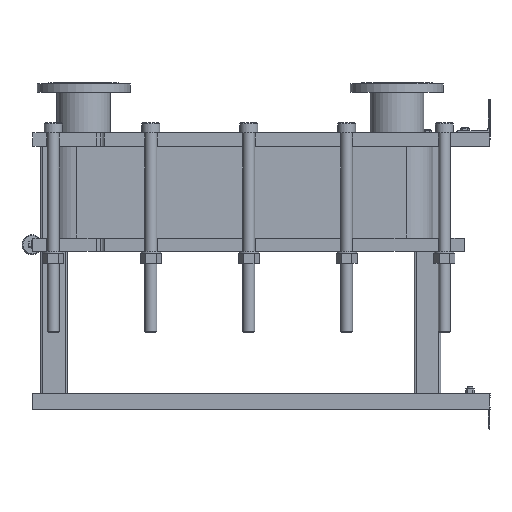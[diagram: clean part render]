
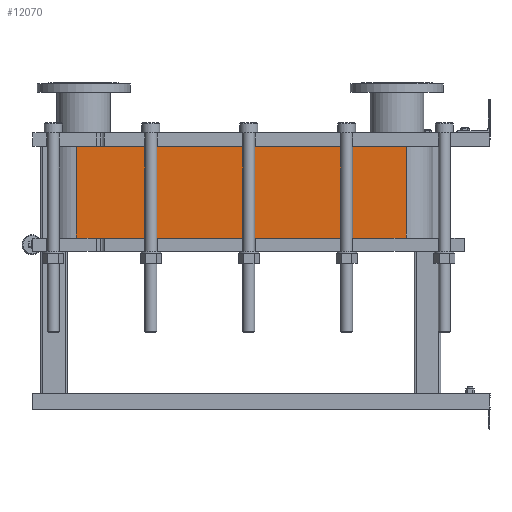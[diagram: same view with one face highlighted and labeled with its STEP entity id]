
A CAD part, left-side view. The second image highlights one B-rep face of the part: STEP entity #12070.
In plain terms, the highlighted planar face has unit normal (-1, 0, 0).
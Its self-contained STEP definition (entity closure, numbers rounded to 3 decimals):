
#1064=LINE('',#21140,#2164);
#1065=LINE('',#21144,#2165);
#1066=LINE('',#21146,#2166);
#1067=LINE('',#21147,#2167);
#2164=VECTOR('',#15790,10.);
#2165=VECTOR('',#15795,10.);
#2166=VECTOR('',#15796,10.);
#2167=VECTOR('',#15797,10.);
#3304=FACE_OUTER_BOUND('',#4091,.T.);
#4091=EDGE_LOOP('',(#9793,#9794,#9795,#9796));
#5677=VERTEX_POINT('',#21137);
#5678=VERTEX_POINT('',#21139);
#5679=VERTEX_POINT('',#21143);
#5680=VERTEX_POINT('',#21145);
#7118=EDGE_CURVE('',#5678,#5677,#1064,.T.);
#7120=EDGE_CURVE('',#5677,#5679,#1065,.T.);
#7121=EDGE_CURVE('',#5680,#5679,#1066,.T.);
#7122=EDGE_CURVE('',#5680,#5678,#1067,.T.);
#9793=ORIENTED_EDGE('',*,*,#7120,.T.);
#9794=ORIENTED_EDGE('',*,*,#7121,.F.);
#9795=ORIENTED_EDGE('',*,*,#7122,.T.);
#9796=ORIENTED_EDGE('',*,*,#7118,.T.);
#11441=PLANE('',#13191);
#12070=ADVANCED_FACE('',(#3304),#11441,.T.);
#13191=AXIS2_PLACEMENT_3D('',#21142,#15793,#15794);
#15790=DIRECTION('',(0.,0.,-1.));
#15793=DIRECTION('center_axis',(-1.,0.,0.));
#15794=DIRECTION('ref_axis',(0.,1.,0.));
#15795=DIRECTION('',(0.,-1.,0.));
#15796=DIRECTION('',(0.,0.,-1.));
#15797=DIRECTION('',(0.,1.,0.));
#21137=CARTESIAN_POINT('',(-248.152,1243.818,-276.));
#21139=CARTESIAN_POINT('',(-248.152,1243.818,0.));
#21140=CARTESIAN_POINT('',(-248.152,1243.818,0.));
#21142=CARTESIAN_POINT('Origin',(-248.152,251.818,0.));
#21143=CARTESIAN_POINT('',(-248.152,251.818,-276.));
#21144=CARTESIAN_POINT('',(-248.152,499.818,-276.));
#21145=CARTESIAN_POINT('',(-248.152,251.818,0.));
#21146=CARTESIAN_POINT('',(-248.152,251.818,0.));
#21147=CARTESIAN_POINT('',(-248.152,251.818,0.));
